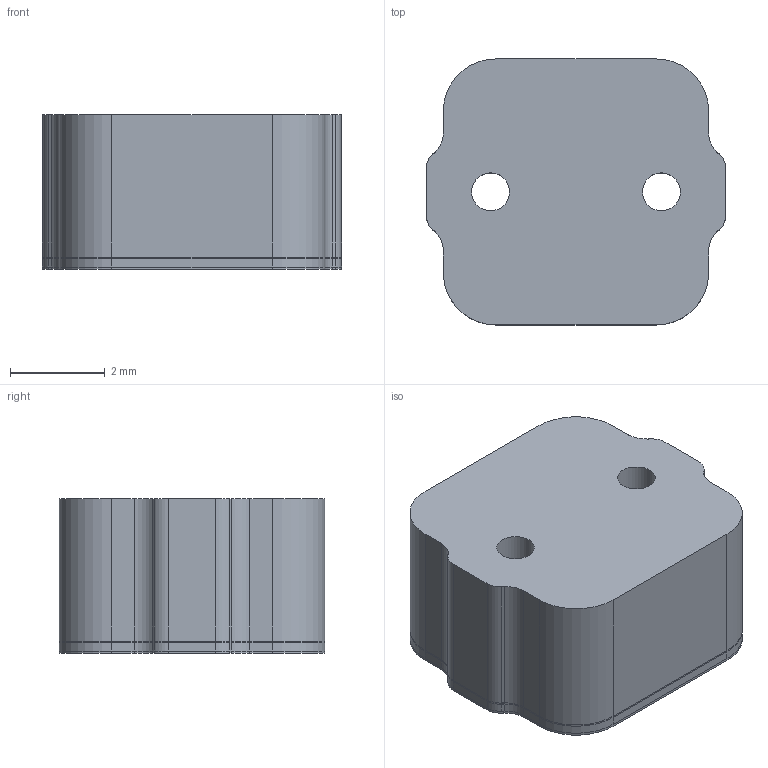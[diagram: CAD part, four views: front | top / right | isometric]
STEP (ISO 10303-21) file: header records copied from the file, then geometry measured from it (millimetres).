
FILE_DESCRIPTION(('HOOPS Exchange Step'),'2;1');
FILE_NAME('/Users/xavierjoseph/Library/Containers/com.shapr3d.shapr/Data/tmp/export/temp_export','2025-08-26T16:11:04-04:00',('xavierjoseph'),('Shapr3D Limited'),'HOOPS Exchange 2024.8','Shapr3D','Authorized');
FILE_SCHEMA( ('AP242_MANAGED_MODEL_BASED_3D_ENGINEERING_MIM_LF {1 0 10303 442 1 1 4}') );
Length unit declared in the file: millimetre
Products named in the file (6): L1:1; L2:1; L3:1; L4:1; Flow Insert v2.step; root
Assembly tree (5 placements, depth 3):
  root
    Flow Insert v2.step
      L1:1
      L2:1
      L3:1
      L4:1
Bounding box: 6.3 x 5.6 x 3.26 mm (x, y, z)
Volume: 98 mm3; surface area: 301 mm2
Topology: 4 solids, 4 shells, 125 faces, 351 edges, 234 vertices
Faces by surface type: cylinder 63, plane 62
Full cylindrical faces by diameter (mm): 0.8 x2
Entity records: 4262 total; most frequent: DIRECTION 751, CARTESIAN_POINT 722, ORIENTED_EDGE 702, EDGE_CURVE 351, AXIS2_PLACEMENT_3D 263, VERTEX_POINT 234, VECTOR 225, LINE 225
